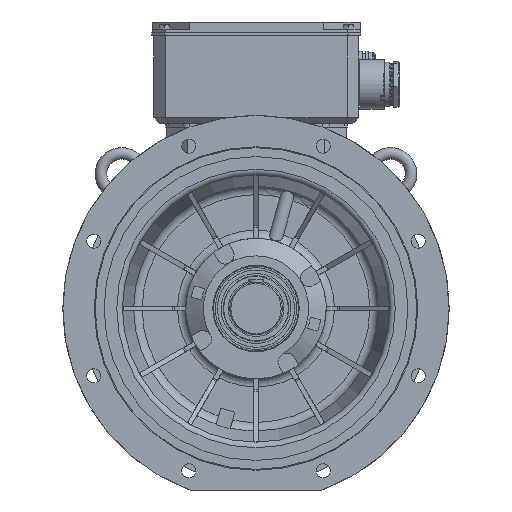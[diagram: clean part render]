
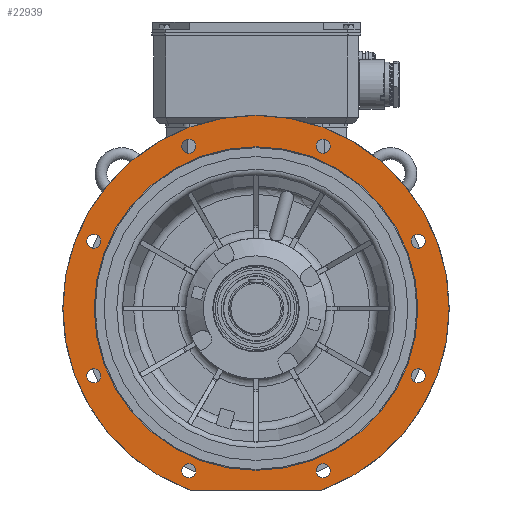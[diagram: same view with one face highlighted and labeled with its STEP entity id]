
A CAD part, front view. The second image highlights one B-rep face of the part: STEP entity #22939.
In plain terms, the highlighted planar face has unit normal (0, -1, 0).
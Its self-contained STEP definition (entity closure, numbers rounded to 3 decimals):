
#1161=CIRCLE('',#23439,3.);
#1162=CIRCLE('',#23441,3.);
#1163=CIRCLE('',#23443,330.);
#1662=CIRCLE('',#24705,12.);
#1664=CIRCLE('',#24708,12.);
#1666=CIRCLE('',#24711,12.);
#1668=CIRCLE('',#24714,12.);
#1670=CIRCLE('',#24717,12.);
#1672=CIRCLE('',#24720,12.);
#1674=CIRCLE('',#24723,12.);
#1676=CIRCLE('',#24726,12.);
#1785=CIRCLE('',#25027,276.4);
#7513=ORIENTED_EDGE('',*,*,#9015,.T.);
#7514=ORIENTED_EDGE('',*,*,#11351,.F.);
#7515=ORIENTED_EDGE('',*,*,#9012,.T.);
#7516=ORIENTED_EDGE('',*,*,#9018,.F.);
#7517=ORIENTED_EDGE('',*,*,#11135,.F.);
#7518=ORIENTED_EDGE('',*,*,#11137,.F.);
#7519=ORIENTED_EDGE('',*,*,#11139,.F.);
#7520=ORIENTED_EDGE('',*,*,#11141,.F.);
#7521=ORIENTED_EDGE('',*,*,#11143,.F.);
#7522=ORIENTED_EDGE('',*,*,#11145,.F.);
#7523=ORIENTED_EDGE('',*,*,#11147,.F.);
#7524=ORIENTED_EDGE('',*,*,#11149,.F.);
#7525=ORIENTED_EDGE('',*,*,#11619,.F.);
#9012=EDGE_CURVE('',#12269,#12270,#1161,.F.);
#9015=EDGE_CURVE('',#12271,#12272,#1162,.F.);
#9018=EDGE_CURVE('',#12271,#12270,#1163,.T.);
#11135=EDGE_CURVE('',#13715,#13715,#1662,.F.);
#11137=EDGE_CURVE('',#13717,#13717,#1664,.F.);
#11139=EDGE_CURVE('',#13719,#13719,#1666,.F.);
#11141=EDGE_CURVE('',#13721,#13721,#1668,.F.);
#11143=EDGE_CURVE('',#13723,#13723,#1670,.F.);
#11145=EDGE_CURVE('',#13725,#13725,#1672,.F.);
#11147=EDGE_CURVE('',#13727,#13727,#1674,.F.);
#11149=EDGE_CURVE('',#13729,#13729,#1676,.F.);
#11351=EDGE_CURVE('',#12269,#12272,#15900,.T.);
#11619=EDGE_CURVE('',#14022,#14022,#1785,.F.);
#12269=VERTEX_POINT('',#33177);
#12270=VERTEX_POINT('',#33178);
#12271=VERTEX_POINT('',#33183);
#12272=VERTEX_POINT('',#33184);
#13715=VERTEX_POINT('',#41972);
#13717=VERTEX_POINT('',#41977);
#13719=VERTEX_POINT('',#41982);
#13721=VERTEX_POINT('',#41987);
#13723=VERTEX_POINT('',#41992);
#13725=VERTEX_POINT('',#41997);
#13727=VERTEX_POINT('',#42002);
#13729=VERTEX_POINT('',#42007);
#14022=VERTEX_POINT('',#43426);
#15900=LINE('',#42493,#17822);
#17822=VECTOR('',#30323,1000.);
#19249=EDGE_LOOP('',(#7513,#7514,#7515,#7516));
#19250=EDGE_LOOP('',(#7517));
#19251=EDGE_LOOP('',(#7518));
#19252=EDGE_LOOP('',(#7519));
#19253=EDGE_LOOP('',(#7520));
#19254=EDGE_LOOP('',(#7521));
#19255=EDGE_LOOP('',(#7522));
#19256=EDGE_LOOP('',(#7523));
#19257=EDGE_LOOP('',(#7524));
#19258=EDGE_LOOP('',(#7525));
#20762=FACE_BOUND('',#19249,.T.);
#20763=FACE_BOUND('',#19250,.T.);
#20764=FACE_BOUND('',#19251,.T.);
#20765=FACE_BOUND('',#19252,.T.);
#20766=FACE_BOUND('',#19253,.T.);
#20767=FACE_BOUND('',#19254,.T.);
#20768=FACE_BOUND('',#19255,.T.);
#20769=FACE_BOUND('',#19256,.T.);
#20770=FACE_BOUND('',#19257,.T.);
#20771=FACE_BOUND('',#19258,.T.);
#21773=PLANE('',#25026);
#22939=ADVANCED_FACE('',(#20762,#20763,#20764,#20765,#20766,#20767,#20768,
#20769,#20770,#20771),#21773,.F.);
#23439=AXIS2_PLACEMENT_3D('',#33176,#26042,#26043);
#23441=AXIS2_PLACEMENT_3D('',#33182,#26048,#26049);
#23443=AXIS2_PLACEMENT_3D('',#33188,#26054,#26055);
#24705=AXIS2_PLACEMENT_3D('',#41971,#29923,#29924);
#24708=AXIS2_PLACEMENT_3D('',#41976,#29929,#29930);
#24711=AXIS2_PLACEMENT_3D('',#41981,#29935,#29936);
#24714=AXIS2_PLACEMENT_3D('',#41986,#29941,#29942);
#24717=AXIS2_PLACEMENT_3D('',#41991,#29947,#29948);
#24720=AXIS2_PLACEMENT_3D('',#41996,#29953,#29954);
#24723=AXIS2_PLACEMENT_3D('',#42001,#29959,#29960);
#24726=AXIS2_PLACEMENT_3D('',#42006,#29965,#29966);
#25026=AXIS2_PLACEMENT_3D('',#43424,#30804,#30805);
#25027=AXIS2_PLACEMENT_3D('',#43425,#30806,#30807);
#26042=DIRECTION('',(0.,1.,0.));
#26043=DIRECTION('',(0.,0.,1.));
#26048=DIRECTION('',(0.,1.,0.));
#26049=DIRECTION('',(0.,0.,1.));
#26054=DIRECTION('',(0.,1.,0.));
#26055=DIRECTION('',(0.,0.,1.));
#29923=DIRECTION('',(0.,1.,0.));
#29924=DIRECTION('',(0.,0.,1.));
#29929=DIRECTION('',(0.,1.,0.));
#29930=DIRECTION('',(0.,0.,1.));
#29935=DIRECTION('',(0.,1.,0.));
#29936=DIRECTION('',(0.,0.,1.));
#29941=DIRECTION('',(0.,1.,0.));
#29942=DIRECTION('',(0.,0.,1.));
#29947=DIRECTION('',(0.,1.,0.));
#29948=DIRECTION('',(0.,0.,1.));
#29953=DIRECTION('',(0.,1.,0.));
#29954=DIRECTION('',(0.,0.,1.));
#29959=DIRECTION('',(0.,1.,0.));
#29960=DIRECTION('',(0.,0.,1.));
#29965=DIRECTION('',(0.,1.,0.));
#29966=DIRECTION('',(0.,0.,1.));
#30323=DIRECTION('',(-1.,0.,0.));
#30804=DIRECTION('',(0.,1.,0.));
#30805=DIRECTION('',(1.,0.,0.));
#30806=DIRECTION('',(0.,1.,0.));
#30807=DIRECTION('',(0.,0.,1.));
#33176=CARTESIAN_POINT('',(112.606,-104.997,-307.));
#33177=CARTESIAN_POINT('',(112.606,-104.997,-310.));
#33178=CARTESIAN_POINT('',(113.639,-104.997,-309.817));
#33182=CARTESIAN_POINT('',(-112.606,-104.997,-307.));
#33183=CARTESIAN_POINT('',(-113.639,-104.997,-309.817));
#33184=CARTESIAN_POINT('',(-112.606,-104.997,-310.));
#33188=CARTESIAN_POINT('',(0.,-104.997,0.));
#41971=CARTESIAN_POINT('',(-277.164,-104.997,114.805));
#41972=CARTESIAN_POINT('',(-277.164,-104.997,126.805));
#41976=CARTESIAN_POINT('',(-277.164,-104.997,-114.805));
#41977=CARTESIAN_POINT('',(-277.164,-104.997,-102.805));
#41981=CARTESIAN_POINT('',(-114.805,-104.997,-277.164));
#41982=CARTESIAN_POINT('',(-114.805,-104.997,-265.164));
#41986=CARTESIAN_POINT('',(114.805,-104.997,-277.164));
#41987=CARTESIAN_POINT('',(114.805,-104.997,-265.164));
#41991=CARTESIAN_POINT('',(277.164,-104.997,-114.805));
#41992=CARTESIAN_POINT('',(277.164,-104.997,-102.805));
#41996=CARTESIAN_POINT('',(277.164,-104.997,114.805));
#41997=CARTESIAN_POINT('',(277.164,-104.997,126.805));
#42001=CARTESIAN_POINT('',(114.805,-104.997,277.164));
#42002=CARTESIAN_POINT('',(114.805,-104.997,289.164));
#42006=CARTESIAN_POINT('',(-114.805,-104.997,277.164));
#42007=CARTESIAN_POINT('',(-114.805,-104.997,289.164));
#42493=CARTESIAN_POINT('',(-113.137,-104.997,-310.));
#43424=CARTESIAN_POINT('',(0.,-104.997,276.4));
#43425=CARTESIAN_POINT('',(0.,-104.997,0.));
#43426=CARTESIAN_POINT('',(0.,-104.997,276.4));
